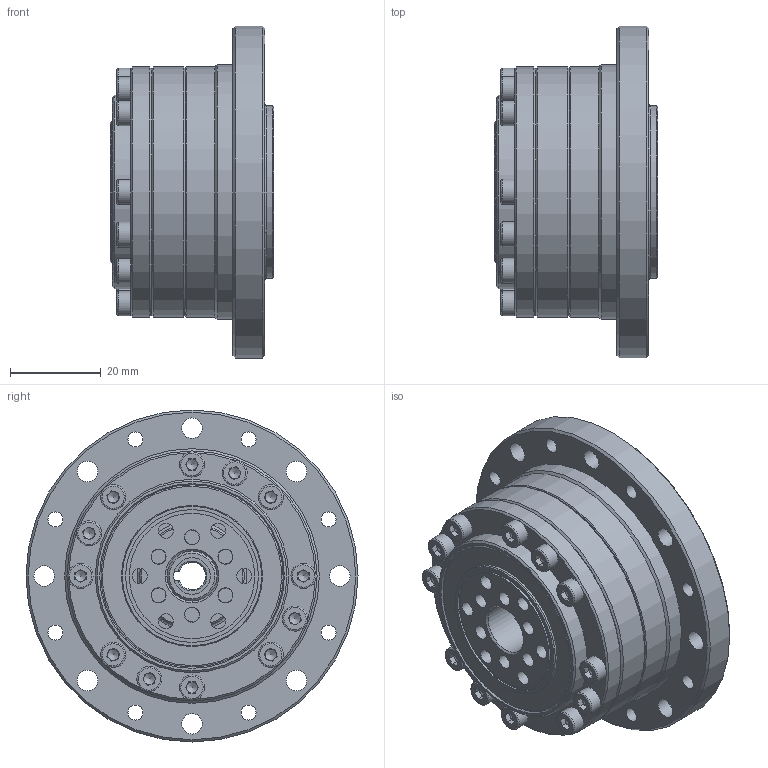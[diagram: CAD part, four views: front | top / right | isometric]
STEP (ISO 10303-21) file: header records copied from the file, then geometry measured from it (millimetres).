
FILE_DESCRIPTION (( 'STEP AP203' ), '1' );
FILE_NAME ('LCSG-14-XXX-C-I.STEP', '2025-01-20T01:47:49', ( '' ), ( '' ), 'SwSTEP 2.0', 'SolidWorks 2023', '' );
FILE_SCHEMA (( 'CONFIG_CONTROL_DESIGN' ));
Length unit declared in the file: metre
Products named in the file (1): LCSG-14-XXX-C-I
Bounding box: 36 x 73 x 73 mm (x, y, z)
Volume: 67608.1 mm3; surface area: 54341.3 mm2
Topology: 57 solids, 57 shells, 895 faces, 2142 edges, 1362 vertices
Faces by surface type: plane 460, cylinder 232, cone 117, bspline 86
Full cylindrical faces by diameter (mm): 1.6 x4, 2 x4, 2.4 x4, 2.5 x12, 3 x12, 3.3 x22, 3.5 x20, 3.8 x4, 4 x6, 4.5 x22, 5.5 x12, 7 x6, 8 x1, 11 x3, 13 x2, 14 x1, 23 x1, 23.5 x2, 24 x1, 24.1 x1, 25 x1, 25.07 x1, 26 x1, 26.707 x2, 27.6 x2, 29.2 x1, 29.5 x1, 30.5 x1, 31 x1, 31.4 x1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
Entity records: 27902 total; most frequent: CARTESIAN_POINT 9260, DIRECTION 3890, ORIENTED_EDGE 3276, EDGE_CURVE 1638, AXIS2_PLACEMENT_3D 1606, EDGE_LOOP 1434, VERTEX_POINT 1220, FACE_OUTER_BOUND 1120
